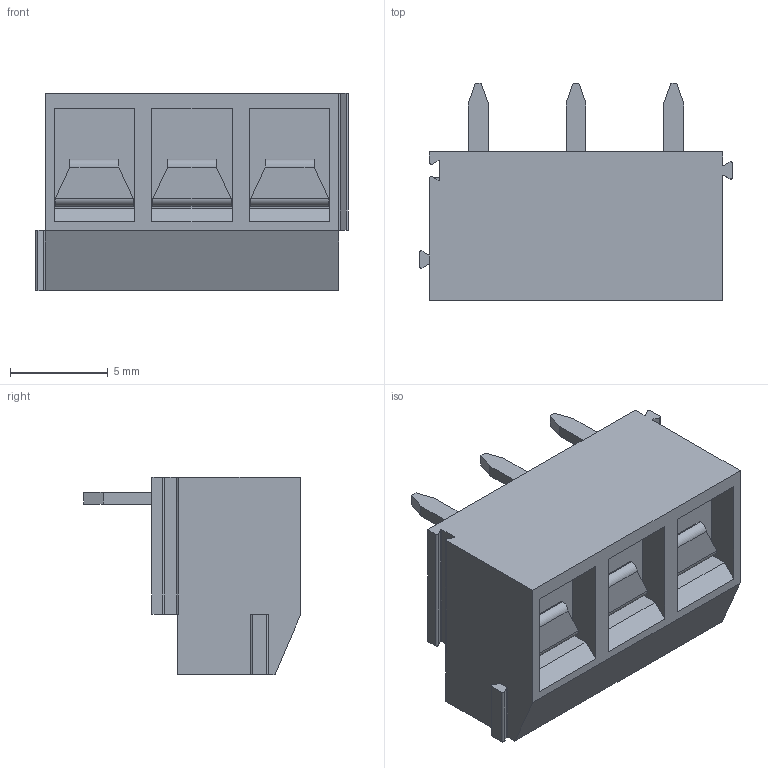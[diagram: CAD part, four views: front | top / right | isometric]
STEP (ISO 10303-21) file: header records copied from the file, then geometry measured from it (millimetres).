
FILE_DESCRIPTION((''),'2;1');
FILE_NAME('3','2019-05-08T',('zhenbing.lai'),(''),'CREO PARAMETRIC BY PTC INC, 2016260','CREO PARAMETRIC BY PTC INC, 2016260','');
FILE_SCHEMA(('CONFIG_CONTROL_DESIGN'));
Length unit declared in the file: millimetre
Products named in the file (1): 3
Bounding box: 16 x 11.1 x 10.1 mm (x, y, z)
Volume: 910.6 mm3; surface area: 1228.5 mm2
Topology: 1 solids, 1 shells, 421 faces, 1221 edges, 797 vertices
Faces by surface type: plane 315, cylinder 85, torus 12, cone 6, bspline 3
Entity records: 14227 total; most frequent: CARTESIAN_POINT 3166, ORIENTED_EDGE 2442, DIRECTION 2095, EDGE_CURVE 1221, VECTOR 867, LINE 867, VERTEX_POINT 797, AXIS2_PLACEMENT_3D 614
